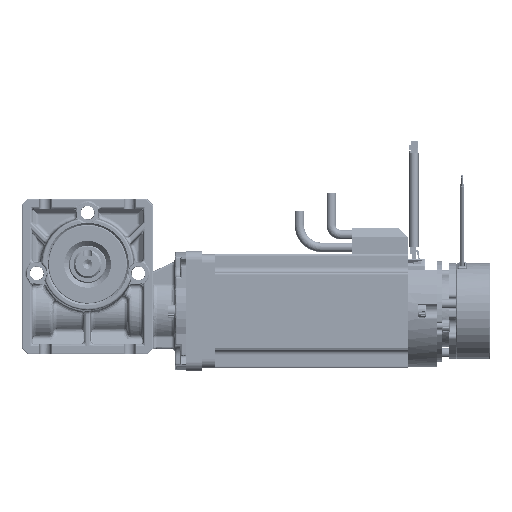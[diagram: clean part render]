
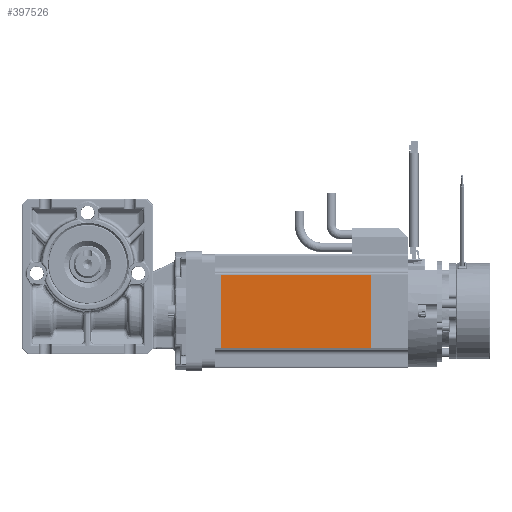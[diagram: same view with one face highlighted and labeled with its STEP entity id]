
A CAD part, top view. The second image highlights one B-rep face of the part: STEP entity #397526.
In plain terms, the highlighted planar face has unit normal (0, 0, 1).
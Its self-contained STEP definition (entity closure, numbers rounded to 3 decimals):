
#1103 = CARTESIAN_POINT ( 'NONE',  ( 146.745, -19.63, 213.836 ) ) ;
#14659 = CARTESIAN_POINT ( 'NONE',  ( 46.745, 19.37, 213.836 ) ) ;
#16371 = DIRECTION ( 'NONE',  ( 0., 0., 1. ) ) ;
#30059 = LINE ( 'NONE', #214700, #387320 ) ;
#53943 = CARTESIAN_POINT ( 'NONE',  ( 126.745, -19.63, 213.836 ) ) ;
#55031 = DIRECTION ( 'NONE',  ( 0., 1., 0. ) ) ;
#57757 = EDGE_CURVE ( 'NONE', #157318, #271689, #30059, .T. ) ;
#58900 = ORIENTED_EDGE ( 'NONE', *, *, #356366, .F. ) ;
#65954 = DIRECTION ( 'NONE',  ( 1., 0., 0. ) ) ;
#82865 = ORIENTED_EDGE ( 'NONE', *, *, #249077, .T. ) ;
#85446 = EDGE_CURVE ( 'NONE', #157318, #104851, #252249, .T. ) ;
#104851 = VERTEX_POINT ( 'NONE', #53943 ) ;
#112002 = LINE ( 'NONE', #300323, #337676 ) ;
#136656 = CARTESIAN_POINT ( 'NONE',  ( 126.745, -25.63, 213.836 ) ) ;
#142210 = FACE_OUTER_BOUND ( 'NONE', #306146, .T. ) ;
#146252 = DIRECTION ( 'NONE',  ( 0., 1., 0. ) ) ;
#157318 = VERTEX_POINT ( 'NONE', #269268 ) ;
#185840 = LINE ( 'NONE', #1103, #291072 ) ;
#188421 = AXIS2_PLACEMENT_3D ( 'NONE', #389451, #16371, #146252 ) ;
#214700 = CARTESIAN_POINT ( 'NONE',  ( 43.745, 19.37, 213.836 ) ) ;
#228427 = CARTESIAN_POINT ( 'NONE',  ( 46.745, -19.63, 213.836 ) ) ;
#243134 = DIRECTION ( 'NONE',  ( -1., 0., 0. ) ) ;
#249077 = EDGE_CURVE ( 'NONE', #337367, #104851, #185840, .T. ) ;
#252249 = LINE ( 'NONE', #136656, #360597 ) ;
#269268 = CARTESIAN_POINT ( 'NONE',  ( 126.745, 19.37, 213.836 ) ) ;
#271689 = VERTEX_POINT ( 'NONE', #14659 ) ;
#291072 = VECTOR ( 'NONE', #65954, 1000. ) ;
#295327 = ORIENTED_EDGE ( 'NONE', *, *, #57757, .T. ) ;
#295929 = ORIENTED_EDGE ( 'NONE', *, *, #85446, .F. ) ;
#300323 = CARTESIAN_POINT ( 'NONE',  ( 46.745, -25.63, 213.836 ) ) ;
#302150 = PLANE ( 'NONE',  #188421 ) ;
#306146 = EDGE_LOOP ( 'NONE', ( #295929, #295327, #58900, #82865 ) ) ;
#337367 = VERTEX_POINT ( 'NONE', #228427 ) ;
#337676 = VECTOR ( 'NONE', #55031, 1000. ) ;
#356366 = EDGE_CURVE ( 'NONE', #337367, #271689, #112002, .T. ) ;
#360597 = VECTOR ( 'NONE', #373939, 1000. ) ;
#373939 = DIRECTION ( 'NONE',  ( 0., -1., 0. ) ) ;
#387320 = VECTOR ( 'NONE', #243134, 1000. ) ;
#389451 = CARTESIAN_POINT ( 'NONE',  ( 146.745, -25.63, 213.836 ) ) ;
#397526 = ADVANCED_FACE ( 'NONE', ( #142210 ), #302150, .T. ) ;
